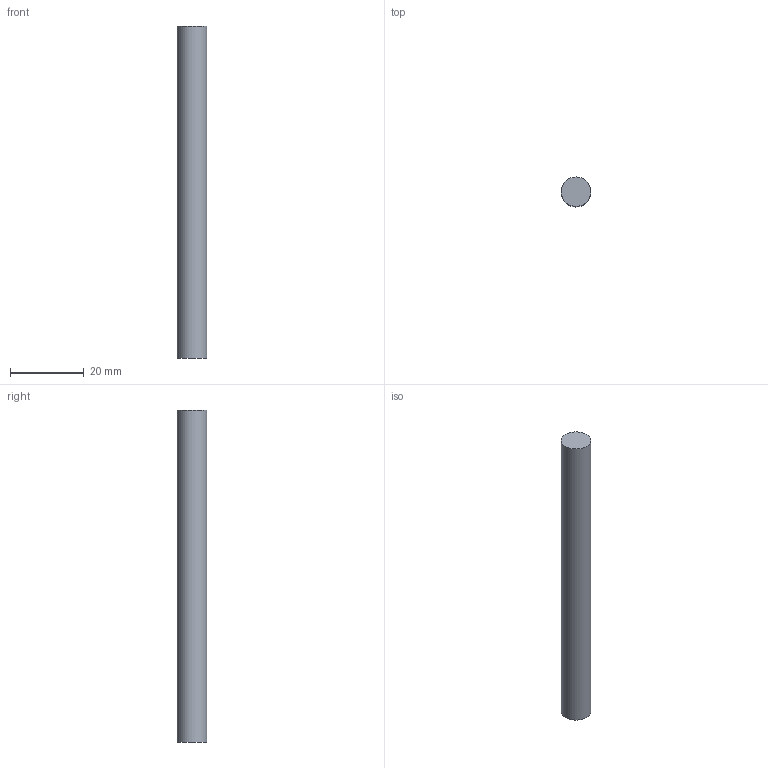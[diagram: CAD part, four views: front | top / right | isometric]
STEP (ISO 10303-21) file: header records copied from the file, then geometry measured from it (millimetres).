
FILE_DESCRIPTION(('FreeCAD Model'),'2;1');
FILE_NAME('Open CASCADE Shape Model','2026-10-30T14:44:59',('FreeCAD'),( 'FreeCAD'),'Open CASCADE STEP processor 7.8','FreeCAD','Unknown');
FILE_SCHEMA(('AUTOMOTIVE_DESIGN { 1 0 10303 214 1 1 1 1 }'));
Length unit declared in the file: millimetre
Products named in the file (1): Open CASCADE STEP translator 7.8 9
Bounding box: 8 x 8 x 89.95 mm (x, y, z)
Volume: 4521.4 mm3; surface area: 2361.2 mm2
Topology: 1 solids, 1 shells, 3 faces, 3 edges, 2 vertices
Faces by surface type: plane 2, cylinder 1
Full cylindrical faces by diameter (mm): 8 x1
Entity records: 69 total; most frequent: DIRECTION 13, CARTESIAN_POINT 9, AXIS2_PLACEMENT_3D 6, ORIENTED_EDGE 6, ADVANCED_FACE 3, FACE_BOUND 3, EDGE_LOOP 3, EDGE_CURVE 3
